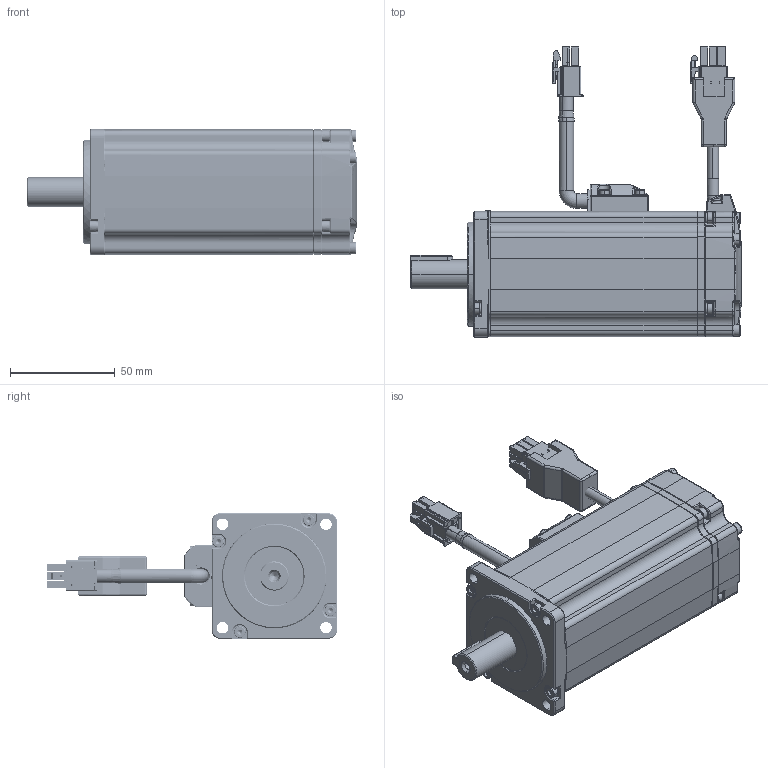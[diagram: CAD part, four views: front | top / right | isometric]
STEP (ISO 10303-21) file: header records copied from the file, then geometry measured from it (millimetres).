
FILE_DESCRIPTION (( 'STEP AP203' ), '1' );
FILE_NAME ('EM3A04A-100-A1-S（永磁交流伺服电机）.STEP', '2019-05-27T01:51:05', ( '' ), ( '' ), 'SwSTEP 2.0', 'SolidWorks 2018', '' );
FILE_SCHEMA (( 'CONFIG_CONTROL_DESIGN' ));
Products named in the file (1): EM3A04A-100-A1-S（永磁交流伺服电机）
Bounding box: 158 x 138.7 x 60 mm (x, y, z)
Surface area: 114722.9 mm2 (no closed solid volume)
Topology: 0 solids, 79 shells, 4828 faces, 12419 edges, 7696 vertices
Faces by surface type: plane 2241, cylinder 1144, bspline 702, cone 395, torus 255, sphere 91
Entity records: 200351 total; most frequent: CARTESIAN_POINT 111716, ORIENTED_EDGE 24274, EDGE_CURVE 12272, B_SPLINE_CURVE_WITH_KNOTS 12092, DIRECTION 8270, VERTEX_POINT 7694, EDGE_LOOP 5141, FACE_OUTER_BOUND 4828
